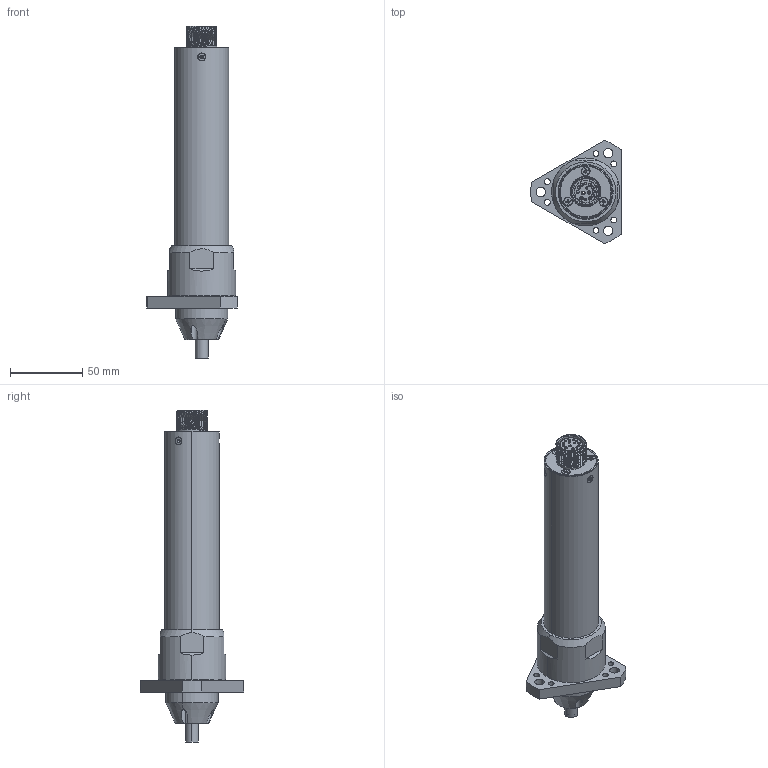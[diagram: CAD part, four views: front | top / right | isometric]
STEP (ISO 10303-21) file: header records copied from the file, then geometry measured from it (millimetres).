
FILE_DESCRIPTION (( 'STEP AP203' ), '1' );
FILE_NAME ('MDA2601-E.STEP', '2023-03-08T03:27:46', ( '' ), ( '' ), 'SwSTEP 2.0', 'SolidWorks 2021', '' );
FILE_SCHEMA (( 'CONFIG_CONTROL_DESIGN' ));
Length unit declared in the file: millimetre
Products named in the file (1): MDA2601-E
Bounding box: 62.43 x 71.48 x 229.56 mm (x, y, z)
Surface area: 40895.2 mm2 (no closed solid volume)
Topology: 0 solids, 40 shells, 350 faces, 1207 edges, 859 vertices
Faces by surface type: cylinder 155, plane 121, cone 55, bspline 19
Entity records: 21841 total; most frequent: CARTESIAN_POINT 11727, DIRECTION 2016, ORIENTED_EDGE 1925, EDGE_CURVE 1207, VERTEX_POINT 859, AXIS2_PLACEMENT_3D 764, LINE 488, VECTOR 488
